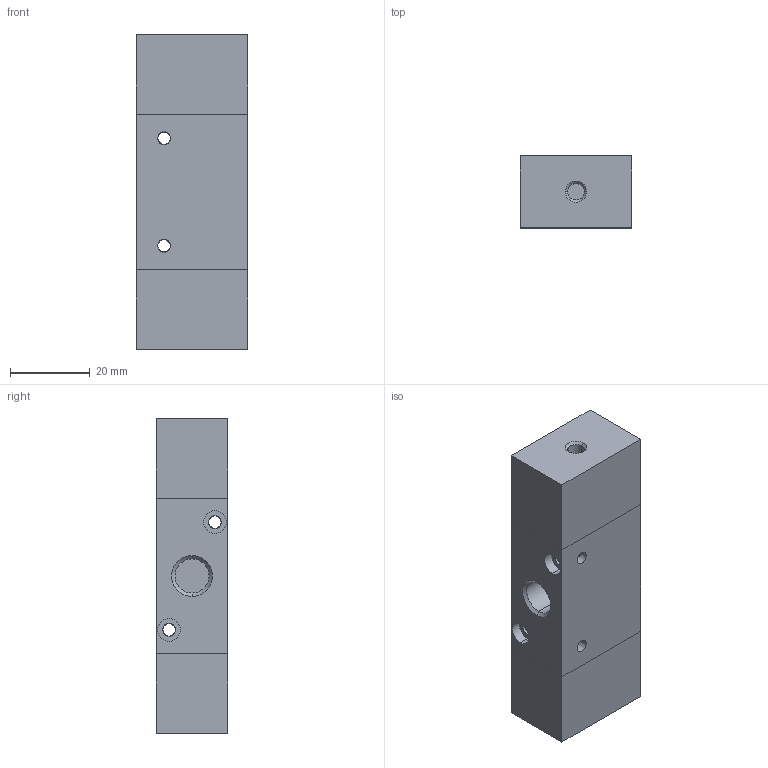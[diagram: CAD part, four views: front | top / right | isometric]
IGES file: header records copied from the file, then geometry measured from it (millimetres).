
Global section: file name: No Iges File Name specified; native system: AutoDesk Inventor R11.0; preprocessor: AutoDesk Inventor Iges Exporter R11.0; author: No Author specified; organization: No Organization specified; date: 20061201.120440; units: millimetre
Bounding box: 28 x 18 x 79 mm (x, y, z)
Volume: 37385.9 mm3; surface area: 9888.3 mm2
Topology: 1 solids, 1 shells, 63 faces, 146 edges, 90 vertices
Faces by surface type: bspline 39, revolution 12, plane 12
